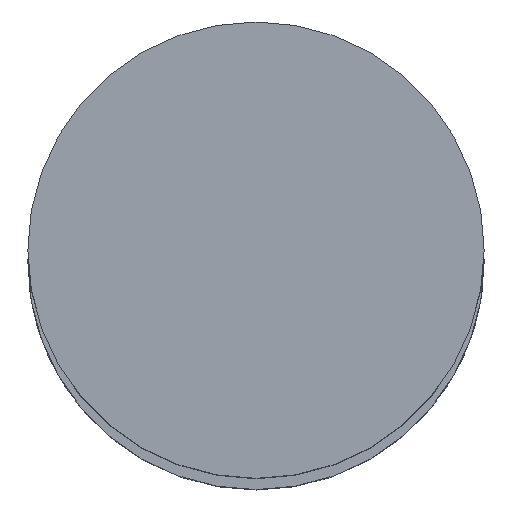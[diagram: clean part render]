
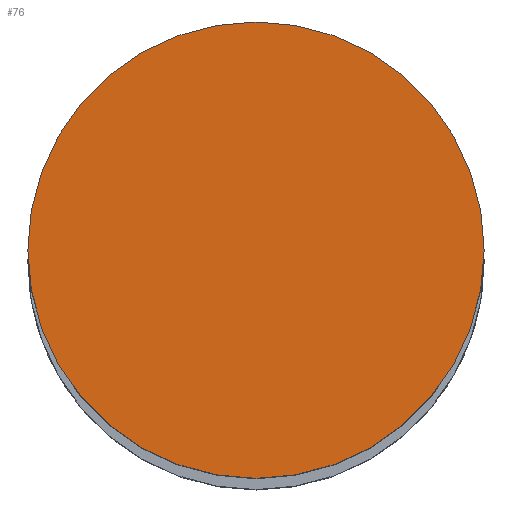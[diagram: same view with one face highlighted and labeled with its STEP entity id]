
A CAD part, top view. The second image highlights one B-rep face of the part: STEP entity #76.
In plain terms, the highlighted planar face has unit normal (0, 0, 1).
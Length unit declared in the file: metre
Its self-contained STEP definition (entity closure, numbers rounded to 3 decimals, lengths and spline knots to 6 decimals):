
#76=ADVANCED_FACE('25:217',(#152),#153,.T.);
#152=FACE_OUTER_BOUND('',#239,.T.);
#153=PLANE('',#240);
#239=EDGE_LOOP('',(#358,#359));
#240=AXIS2_PLACEMENT_3D('',#360,#361,#362);
#358=ORIENTED_EDGE('',*,*,#521,.F.);
#359=ORIENTED_EDGE('',*,*,#515,.F.);
#360=CARTESIAN_POINT('',(0.0,0.0,3.104));
#361=DIRECTION('',(0.0,0.0,1.0));
#362=DIRECTION('',(1.0,0.0,0.0));
#515=EDGE_CURVE('',#614,#616,#617,.F.);
#521=EDGE_CURVE('',#616,#614,#624,.F.);
#614=VERTEX_POINT('',#746);
#616=VERTEX_POINT('',#749);
#617=CIRCLE('',#750,0.0155);
#624=CIRCLE('',#758,0.0155);
#746=CARTESIAN_POINT('',(0.015408,0.000095,3.104));
#749=CARTESIAN_POINT('',(-0.015592,0.000095,3.104));
#750=AXIS2_PLACEMENT_3D('',#871,#872,#873);
#758=AXIS2_PLACEMENT_3D('',#878,#879,#880);
#871=CARTESIAN_POINT('',(-0.000092,0.000095,3.104));
#872=DIRECTION('',(0.0,0.0,1.0));
#873=DIRECTION('',(1.0,0.0,0.0));
#878=CARTESIAN_POINT('',(-0.000092,0.000095,3.104));
#879=DIRECTION('',(0.0,0.0,1.0));
#880=DIRECTION('',(1.0,0.0,0.0));
